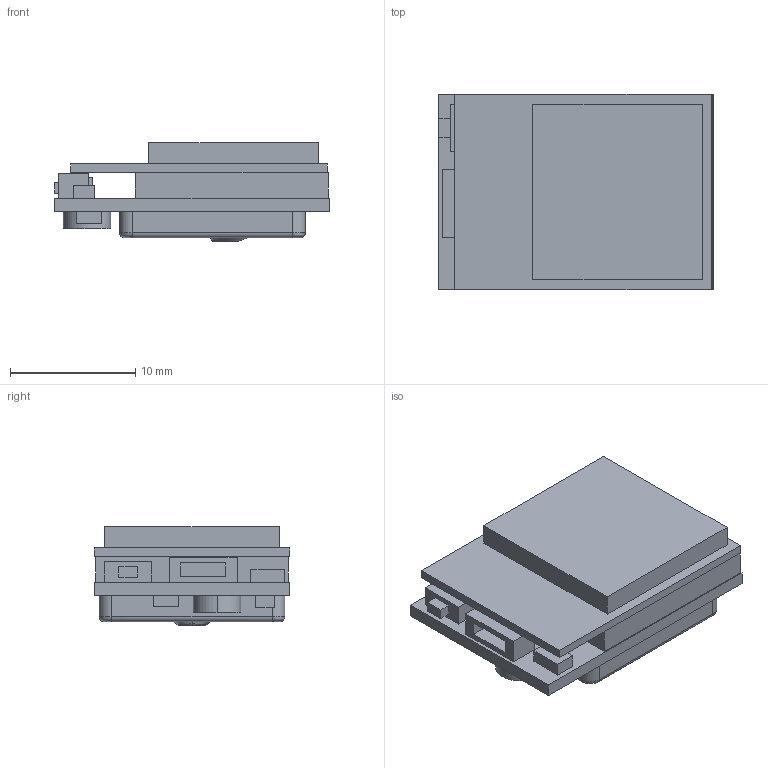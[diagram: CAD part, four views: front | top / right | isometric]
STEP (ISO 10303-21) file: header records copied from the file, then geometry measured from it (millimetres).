
FILE_DESCRIPTION (( 'STEP AP214' ), '1' );
FILE_NAME ('Remote ID.STEP', '2025-02-02T10:15:41', ( '' ), ( '' ), 'SwSTEP 2.0', 'SolidWorks 2024', '' );
FILE_SCHEMA (( 'AUTOMOTIVE_DESIGN' ));
Length unit declared in the file: millimetre
Products named in the file (1): Remote ID
Bounding box: 21.9 x 15.6 x 7.9 mm (x, y, z)
Volume: 1908.6 mm3; surface area: 3272.3 mm2
Topology: 11 solids, 11 shells, 91 faces, 188 edges, 122 vertices
Faces by surface type: plane 73, cylinder 10, bspline 8
Entity records: 2480 total; most frequent: CARTESIAN_POINT 859, ORIENTED_EDGE 376, EDGE_CURVE 188, DIRECTION 168, B_SPLINE_CURVE_WITH_KNOTS 162, VERTEX_POINT 122, EDGE_LOOP 94, FACE_OUTER_BOUND 91
